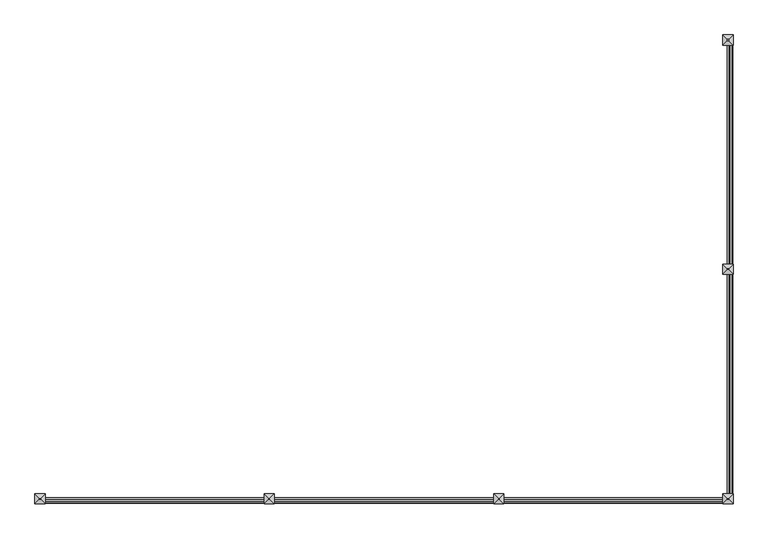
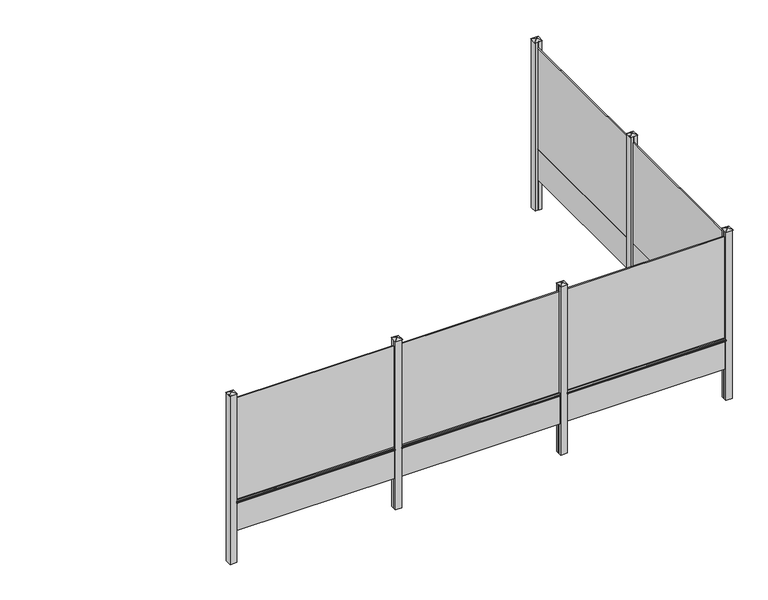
"""IFC4 building model written with IfcOpenShell, lengths in millimetres: railing geometry, Mehat - Railing - Plaque de Soubassement - Classique pour clôture rigide - 250x50x1.7 cm."""

import ifcopenshell
import ifcopenshell.guid

model = None  # the IFC model being written
_history = None  # IfcOwnerHistory: only IFC2X3 demands one
_inside = {}  # id of a spatial element -> (the spatial element, [elements in it])
_under = {}  # id of a project, library or spatial element -> (it, [spatial elements below it])
_declared = {}  # id of a project -> (the project, [libraries it declares])
_typed = {}  # id of a type object -> (the type object, [elements of that type])
_made_of = {}  # id of a material, layer set ... -> (it, [elements and type objects made of it])


def new_model(schema):
    """Start an empty IFC model of exactly this schema.

    Asked for "IFC4X3", IfcOpenShell would pick the latest addendum, in which some entities
    have other attributes; the version numbers below select the first issue.
    IFC2X3 requires an IfcOwnerHistory on every rooted entity: one is made here for all.
    """
    global model, _history
    if schema == "IFC4X3":
        model = ifcopenshell.file(schema_version=(4, 3, 0, 0))
    else:
        model = ifcopenshell.file(schema=schema)
    _inside.clear()
    _under.clear()
    _declared.clear()
    _typed.clear()
    _made_of.clear()
    _history = None
    if model.schema == "IFC2X3":
        org = make("IfcOrganization", Name="unknown")
        user = make(
            "IfcPersonAndOrganization",
            ThePerson=make("IfcPerson", FamilyName="unknown"),
            TheOrganization=org,
        )
        app = make(
            "IfcApplication",
            ApplicationDeveloper=org,
            Version="unknown",
            ApplicationFullName="unknown",
            ApplicationIdentifier="unknown",
        )
        _history = make(
            "IfcOwnerHistory",
            OwningUser=user,
            OwningApplication=app,
            ChangeAction="ADDED",
            CreationDate=0,
        )
    return model


def make(cls, **values):
    """One entity of the class cls with the attributes given. An attribute that is None is left unset."""
    return model.create_entity(
        cls, **{name: value for name, value in values.items() if value is not None}
    )


def rooted(cls, **values):
    """An entity with a GlobalId (a new one), such as an element, a storey or a relation."""
    return make(cls, GlobalId=ifcopenshell.guid.new(), OwnerHistory=_history, **values)


def si_unit(unit_type, name, prefix=None):
    """IfcSIUnit, for example si_unit("LENGTHUNIT", "METRE", prefix="MILLI")."""
    return make("IfcSIUnit", UnitType=unit_type, Prefix=prefix, Name=name)


def assignment(units):
    """IfcUnitAssignment: the units of a project."""
    return None if units is None else make("IfcUnitAssignment", Units=units)


def point(xyz):
    """IfcCartesianPoint."""
    return None if xyz is None else make("IfcCartesianPoint", Coordinates=xyz)


def direction(xyz):
    """IfcDirection."""
    return None if xyz is None else make("IfcDirection", DirectionRatios=xyz)


def frame(location, z_axis=None, x_axis=None):
    """IfcAxis2Placement3D, a coordinate frame: its origin and axes. An axis left out is left unset."""
    return make(
        "IfcAxis2Placement3D",
        Location=point(location),
        Axis=direction(z_axis),
        RefDirection=direction(x_axis),
    )


def frame_2d(location, x_axis=None):
    """IfcAxis2Placement2D, a coordinate frame in the plane: its origin and x axis."""
    return make(
        "IfcAxis2Placement2D", Location=point(location), RefDirection=direction(x_axis)
    )


def origin():
    """The frame at (0, 0, 0) with its axes left unset."""
    return frame((0.0, 0.0, 0.0))


def origin_with_axes():
    """The frame at (0, 0, 0) with the z axis (0, 0, 1) and the x axis (1, 0, 0) written out."""
    return frame((0.0, 0.0, 0.0), z_axis=(0.0, 0.0, 1.0), x_axis=(1.0, 0.0, 0.0))


def place(relative_to, where):
    """IfcLocalPlacement: puts the frame where relative to a parent placement (None: the world)."""
    return make(
        "IfcLocalPlacement", PlacementRelTo=relative_to, RelativePlacement=where
    )


def context(
    kind, dimensions, precision=None, world=None, true_north=None, identifier=None
):
    """IfcGeometricRepresentationContext, for example the 3D "Model" context."""
    return make(
        "IfcGeometricRepresentationContext",
        ContextIdentifier=identifier,
        ContextType=kind,
        CoordinateSpaceDimension=dimensions,
        Precision=precision,
        WorldCoordinateSystem=world,
        TrueNorth=true_north,
    )


def project(units=None, contexts=None):
    """IfcProject with its units and contexts."""
    return rooted(
        "IfcProject",
        Name="project",
        RepresentationContexts=contexts,
        UnitsInContext=assignment(units),
    )


def spatial(cls, under=None, at=None, **own):
    """A site, building, storey or space (cls), placed at a placement, below another one or the project."""
    s = rooted(cls, ObjectPlacement=at, **own)
    if under is not None:
        _under.setdefault(under.id(), (under, []))[1].append(s)
    return s


def polyline(points):
    """IfcPolyline through the points."""
    return make("IfcPolyline", Points=[point(p) for p in points])


def circle_curve(where, radius):
    """IfcCircle in the frame where."""
    return make("IfcCircle", Position=where, Radius=radius)


def trimmed(basis, trim1, trim2, sense, master):
    """IfcTrimmedCurve: the piece of a basis curve between two trims."""
    return make(
        "IfcTrimmedCurve",
        BasisCurve=basis,
        Trim1=trim1,
        Trim2=trim2,
        SenseAgreement=sense,
        MasterRepresentation=master,
    )


def segment(curve, same_sense, transition):
    """IfcCompositeCurveSegment."""
    return make(
        "IfcCompositeCurveSegment",
        Transition=transition,
        SameSense=same_sense,
        ParentCurve=curve,
    )


def composite_curve(segments, self_intersect=None):
    """IfcCompositeCurve: segments joined end to end."""
    return make("IfcCompositeCurve", Segments=segments, SelfIntersect=self_intersect)


def outline(outer, holes=None, kind="AREA"):
    """IfcArbitraryClosedProfileDef: a profile drawn as a closed curve; with holes, ...WithVoids."""
    if holes is None:
        return make("IfcArbitraryClosedProfileDef", ProfileType=kind, OuterCurve=outer)
    return make(
        "IfcArbitraryProfileDefWithVoids",
        ProfileType=kind,
        OuterCurve=outer,
        InnerCurves=holes,
    )


def extrude(swept, where, along, depth):
    """IfcExtrudedAreaSolid: the profile swept, set in the frame where, extruded along a direction by depth."""
    return make(
        "IfcExtrudedAreaSolid",
        SweptArea=swept,
        Position=where,
        ExtrudedDirection=direction(along),
        Depth=depth,
    )


def faces_of(points, faces, orient=None, outer=None):
    """IfcFace entities. A face is a list of loops; a loop is a list of indices into points, from 0.

    orient and outer hold one flag for each loop. By default every Orientation is true, the
    first loop of a face is its IfcFaceOuterBound and the others are IfcFaceBound.
    """
    made = []
    for i, loops in enumerate(faces):
        bounds = []
        for j, loop in enumerate(loops):
            is_outer = j == 0 if outer is None else outer[i][j]
            bounds.append(
                make(
                    "IfcFaceOuterBound" if is_outer else "IfcFaceBound",
                    Bound=make("IfcPolyLoop", Polygon=[points[k] for k in loop]),
                    Orientation=True if orient is None else orient[i][j],
                )
            )
        made.append(make("IfcFace", Bounds=bounds))
    return made


def faceted_brep(points, faces, orient=None, outer=None, voids=None):
    """IfcFacetedBrep: a solid bounded by flat faces; with voids (closed shells), ...WithVoids."""
    shared = [point(p) for p in points]
    hull = make("IfcClosedShell", CfsFaces=faces_of(shared, faces, orient, outer))
    if voids is None:
        return make("IfcFacetedBrep", Outer=hull)
    return make(
        "IfcFacetedBrepWithVoids",
        Outer=hull,
        Voids=[
            make(cls, CfsFaces=faces_of(shared, fs, o, b)) for cls, fs, o, b in voids
        ],
    )


def shape(context_of_items, identifier, shape_type, items):
    """IfcShapeRepresentation: the items that make up one representation, for example the "Body"."""
    return make(
        "IfcShapeRepresentation",
        ContextOfItems=context_of_items,
        RepresentationIdentifier=identifier,
        RepresentationType=shape_type,
        Items=items,
    )


def source(mapping_origin, context_of_items, identifier, shape_type, items):
    """IfcRepresentationMap: a shape defined once, which mapped items show again and again."""
    return make(
        "IfcRepresentationMap",
        MappingOrigin=mapping_origin,
        MappedRepresentation=shape(context_of_items, identifier, shape_type, items),
    )


def transform(
    local_origin,
    x_axis=None,
    y_axis=None,
    z_axis=None,
    scale=None,
    scale2=None,
    scale3=None,
    uniform=True,
):
    """IfcCartesianTransformationOperator3D, or its non-uniform kind. x_axis, y_axis, z_axis: its Axis1, 2, 3."""
    if uniform:
        return make(
            "IfcCartesianTransformationOperator3D",
            Axis1=direction(x_axis),
            Axis2=direction(y_axis),
            LocalOrigin=point(local_origin),
            Scale=scale,
            Axis3=direction(z_axis),
        )
    return make(
        "IfcCartesianTransformationOperator3DnonUniform",
        Axis1=direction(x_axis),
        Axis2=direction(y_axis),
        LocalOrigin=point(local_origin),
        Scale=scale,
        Axis3=direction(z_axis),
        Scale2=scale2,
        Scale3=scale3,
    )


def mapped(mapping_source, mapping_target):
    """IfcMappedItem: shows the shape of a source again, moved by a transform."""
    return make(
        "IfcMappedItem", MappingSource=mapping_source, MappingTarget=mapping_target
    )


def made_of(thing, what):
    """Note that an element or type object is made of a material, layer set ...; save() writes the relation."""
    if what is not None:
        _made_of.setdefault(what.id(), (what, []))[1].append(thing)
    return thing


def element(
    cls,
    number,
    at=None,
    inside=None,
    cuts=None,
    type_object=None,
    material=None,
    context=None,
    identifier="Body",
    shape_type=None,
    held_by="IfcProductDefinitionShape",
    body=None,
    shapes=None,
    **own,
):
    """One element of the class cls, such as IfcWall. Its Tag is "e" and its number.

    at: its placement. inside: the storey or other place that contains it. cuts: it is an
    opening in that element (IfcRelVoidsElement). A single representation is given by context,
    identifier, shape_type and body (its items); several are given by shapes. held_by: the class
    of the entity that holds the representations. save() writes the other relations.
    """
    e = rooted(cls, Tag="e%d" % number, ObjectPlacement=at, **own)
    if body is not None:
        shapes = [shape(context, identifier, shape_type, body)]
    if shapes is not None:
        e.Representation = make(held_by, Representations=shapes)
    if inside is not None:
        _inside.setdefault(inside.id(), (inside, []))[1].append(e)
    if cuts is not None:
        rooted(
            "IfcRelVoidsElement", RelatingBuildingElement=cuts, RelatedOpeningElement=e
        )
    if type_object is not None:
        _typed.setdefault(type_object.id(), (type_object, []))[1].append(e)
    return made_of(e, material)


def aggregate(whole, parts):
    """IfcRelAggregates: a whole, such as a stair, and the parts it consists of."""
    return rooted("IfcRelAggregates", RelatingObject=whole, RelatedObjects=parts)


def save(model, path):
    """Write the relations noted so far, then the file.

    IfcRelAggregates (storeys below a building ...), IfcRelContainedInSpatialStructure (elements
    in a storey), IfcRelDefinesByType, IfcRelAssociatesMaterial and IfcRelDeclares: one each for
    every whole, place, type object, material and project.
    """
    for whole, parts in _under.values():
        aggregate(whole, parts)
    for where, things in _inside.values():
        rooted(
            "IfcRelContainedInSpatialStructure",
            RelatedElements=things,
            RelatingStructure=where,
        )
    for kind, things in _typed.values():
        rooted("IfcRelDefinesByType", RelatedObjects=things, RelatingType=kind)
    for what, things in _made_of.values():
        rooted("IfcRelAssociatesMaterial", RelatedObjects=things, RelatingMaterial=what)
    for by, libraries in _declared.values():
        rooted("IfcRelDeclares", RelatingContext=by, RelatedDefinitions=libraries)
    model.write(path)


def railing_8aa74cb8(model_context):
    return source(origin(), model_context, "Body", "SolidModel", [
        extrude(outline(polyline([(-14103.7483484, -11027.4943936), (-14120.7483484, -11027.4943936), (-14120.7483484, -8527.4943936), (-14103.7483484, -8527.4943936), (-14103.7483484, -11027.4943936)])), frame((0.0, 0.0, 500.0), z_axis=(0.0, 0.0, 1.0), x_axis=(1.0, 0.0, 0.0)), (0.0, 0.0, 1.0), 1650.0),
        extrude(outline(polyline([(-14103.7483484, -11027.4943936), (-14120.7483484, -11027.4943936), (-14120.7483484, -8527.4943936), (-14103.7483484, -8527.4943936), (-14103.7483484, -8552.4943936), (-14085.7483484, -8552.4943936), (-14085.7483484, -11002.4943936), (-14103.7483484, -11002.4943936), (-14103.7483484, -11027.4943936)])), origin_with_axes(), (0.0, 0.0, 1.0), 500.0),
        extrude(outline(composite_curve([segment(polyline([(460.0, -14085.7483484), (467.1937129, -14064.1672095)]), True, "CONTINUOUS"), segment(trimmed(circle_curve(frame_2d((471.9371294, -14065.7483484)), 5.0), [point((467.1937129, -14064.1672095))], [point((471.9371294, -14060.7483484))], False, "CARTESIAN"), True, "CONTINUOUS"), segment(polyline([(471.9371294, -14060.7483484), (488.0628706, -14060.7483484)]), True, "CONTINUOUS"), segment(trimmed(circle_curve(frame_2d((488.0628706, -14065.7483484)), 5.0), [point((488.0628706, -14060.7483484))], [point((492.8062871, -14064.1672095))], False, "CARTESIAN"), True, "CONTINUOUS"), segment(polyline([(492.8062871, -14064.1672095), (500.0, -14085.7483484), (460.0, -14085.7483484)]), True, "CONTINUOUS")], self_intersect=False)), frame((0.0, -11002.4943936, 0.0), z_axis=(0.0, 1.0, 0.0), x_axis=(0.0, 0.0, 1.0)), (0.0, 0.0, 1.0), 2450.0),
        extrude(outline(polyline([(-14062.2483484, -11102.4943936), (-14103.7483484, -11102.4943936), (-14103.7483484, -11077.4943936), (-14120.7483484, -11077.4943936), (-14120.7483484, -11102.4943936), (-14162.2483484, -11102.4943936), (-14162.2483484, -11002.4943936), (-14120.7483484, -11002.4943936), (-14120.7483484, -11027.4943936), (-14103.7483484, -11027.4943936), (-14103.7483484, -11002.4943936), (-14062.2483484, -11002.4943936), (-14062.2483484, -11102.4943936)])), frame((0.0, 0.0, -500.0), z_axis=(0.0, 0.0, 1.0), x_axis=(1.0, 0.0, 0.0)), (0.0, 0.0, 1.0), 2750.0),
        faceted_brep([(-14118.6528945, -11046.1443936, 2275.4), (-14118.6528945, -11058.8443936, 2275.4), (-14105.9528945, -11058.8443936, 2275.4), (-14105.9528945, -11046.1443936, 2275.4), (-14168.5983484, -10996.1443936, 2250.0), (-14055.8983484, -10996.1443936, 2250.0), (-14055.8983484, -11108.8443936, 2250.0), (-14168.5983484, -11108.8443936, 2250.0)], [[[0, 1, 2, 3]], [[4, 5, 6, 7]], [[4, 0, 3, 5]], [[5, 3, 2, 6]], [[6, 2, 1, 7]], [[7, 1, 0, 4]]]),
        extrude(outline(polyline([(-14103.7483484, -13577.4943936), (-14120.7483484, -13577.4943936), (-14120.7483484, -11077.4943936), (-14103.7483484, -11077.4943936), (-14103.7483484, -13577.4943936)])), frame((0.0, 0.0, 500.0), z_axis=(0.0, 0.0, 1.0), x_axis=(1.0, 0.0, 0.0)), (0.0, 0.0, 1.0), 1650.0),
        extrude(outline(polyline([(-14103.7483484, -13577.4943936), (-14120.7483484, -13577.4943936), (-14120.7483484, -11077.4943936), (-14103.7483484, -11077.4943936), (-14103.7483484, -11102.4943936), (-14085.7483484, -11102.4943936), (-14085.7483484, -13552.4943936), (-14103.7483484, -13552.4943936), (-14103.7483484, -13577.4943936)])), origin_with_axes(), (0.0, 0.0, 1.0), 500.0),
        extrude(outline(composite_curve([segment(polyline([(460.0, -14085.7483484), (467.1937129, -14064.1672095)]), True, "CONTINUOUS"), segment(trimmed(circle_curve(frame_2d((471.9371294, -14065.7483484)), 5.0), [point((467.1937129, -14064.1672095))], [point((471.9371294, -14060.7483484))], False, "CARTESIAN"), True, "CONTINUOUS"), segment(polyline([(471.9371294, -14060.7483484), (488.0628706, -14060.7483484)]), True, "CONTINUOUS"), segment(trimmed(circle_curve(frame_2d((488.0628706, -14065.7483484)), 5.0), [point((488.0628706, -14060.7483484))], [point((492.8062871, -14064.1672095))], False, "CARTESIAN"), True, "CONTINUOUS"), segment(polyline([(492.8062871, -14064.1672095), (500.0, -14085.7483484), (460.0, -14085.7483484)]), True, "CONTINUOUS")], self_intersect=False)), frame((0.0, -13552.4943936, 0.0), z_axis=(0.0, 1.0, 0.0), x_axis=(0.0, 0.0, 1.0)), (0.0, 0.0, 1.0), 2450.0),
        extrude(outline(polyline([(-16637.2483484, -13610.9943936), (-16637.2483484, -13593.9943936), (-14137.2483484, -13593.9943936), (-14137.2483484, -13610.9943936), (-16637.2483484, -13610.9943936)])), frame((0.0, 0.0, 500.0), z_axis=(0.0, 0.0, 1.0), x_axis=(1.0, 0.0, 0.0)), (0.0, 0.0, 1.0), 1650.0),
        extrude(outline(polyline([(-16637.2483484, -13610.9943936), (-16637.2483484, -13593.9943936), (-14137.2483484, -13593.9943936), (-14137.2483484, -13610.9943936), (-14162.2483484, -13610.9943936), (-14162.2483484, -13628.9943936), (-16612.2483484, -13628.9943936), (-16612.2483484, -13610.9943936), (-16637.2483484, -13610.9943936)])), origin_with_axes(), (0.0, 0.0, 1.0), 500.0),
        extrude(outline(composite_curve([segment(polyline([(-13628.9943936, 460.0), (-13650.5755325, 467.1937129)]), True, "CONTINUOUS"), segment(trimmed(circle_curve(frame_2d((-13648.9943936, 471.9371294)), 5.0), [point((-13650.5755325, 467.1937129))], [point((-13653.9943936, 471.9371294))], False, "CARTESIAN"), True, "CONTINUOUS"), segment(polyline([(-13653.9943936, 471.9371294), (-13653.9943936, 488.0628706)]), True, "CONTINUOUS"), segment(trimmed(circle_curve(frame_2d((-13648.9943936, 488.0628706)), 5.0), [point((-13653.9943936, 488.0628706))], [point((-13650.5755325, 492.8062871))], False, "CARTESIAN"), True, "CONTINUOUS"), segment(polyline([(-13650.5755325, 492.8062871), (-13628.9943936, 500.0), (-13628.9943936, 460.0)]), True, "CONTINUOUS")], self_intersect=False)), frame((-16612.2483484, 0.0, 0.0), z_axis=(1.0, 0.0, 0.0), x_axis=(0.0, 1.0, 0.0)), (0.0, 0.0, 1.0), 2450.0),
        extrude(outline(polyline([(-16712.2483484, -13652.4943936), (-16712.2483484, -13610.9943936), (-16687.2483484, -13610.9943936), (-16687.2483484, -13593.9943936), (-16712.2483484, -13593.9943936), (-16712.2483484, -13552.4943936), (-16612.2483484, -13552.4943936), (-16612.2483484, -13593.9943936), (-16637.2483484, -13593.9943936), (-16637.2483484, -13610.9943936), (-16612.2483484, -13610.9943936), (-16612.2483484, -13652.4943936), (-16712.2483484, -13652.4943936)])), frame((0.0, 0.0, -500.0), z_axis=(0.0, 0.0, 1.0), x_axis=(1.0, 0.0, 0.0)), (0.0, 0.0, 1.0), 2750.0),
        faceted_brep([(-16655.8983484, -13596.0898475, 2275.4), (-16668.5983484, -13596.0898475, 2275.4), (-16668.5983484, -13608.7898475, 2275.4), (-16655.8983484, -13608.7898475, 2275.4), (-16605.8983484, -13546.1443936, 2250.0), (-16605.8983484, -13658.8443936, 2250.0), (-16718.5983484, -13658.8443936, 2250.0), (-16718.5983484, -13546.1443936, 2250.0)], [[[0, 1, 2, 3]], [[4, 5, 6, 7]], [[4, 0, 3, 5]], [[5, 3, 2, 6]], [[6, 2, 1, 7]], [[7, 1, 0, 4]]]),
        extrude(outline(polyline([(-19187.2483484, -13610.9943936), (-19187.2483484, -13593.9943936), (-16687.2483484, -13593.9943936), (-16687.2483484, -13610.9943936), (-19187.2483484, -13610.9943936)])), frame((0.0, 0.0, 500.0), z_axis=(0.0, 0.0, 1.0), x_axis=(1.0, 0.0, 0.0)), (0.0, 0.0, 1.0), 1650.0),
        extrude(outline(polyline([(-19187.2483484, -13610.9943936), (-19187.2483484, -13593.9943936), (-16687.2483484, -13593.9943936), (-16687.2483484, -13610.9943936), (-16712.2483484, -13610.9943936), (-16712.2483484, -13628.9943936), (-19162.2483484, -13628.9943936), (-19162.2483484, -13610.9943936), (-19187.2483484, -13610.9943936)])), origin_with_axes(), (0.0, 0.0, 1.0), 500.0),
        extrude(outline(composite_curve([segment(polyline([(-13628.9943936, 460.0), (-13650.5755325, 467.1937129)]), True, "CONTINUOUS"), segment(trimmed(circle_curve(frame_2d((-13648.9943936, 471.9371294)), 5.0), [point((-13650.5755325, 467.1937129))], [point((-13653.9943936, 471.9371294))], False, "CARTESIAN"), True, "CONTINUOUS"), segment(polyline([(-13653.9943936, 471.9371294), (-13653.9943936, 488.0628706)]), True, "CONTINUOUS"), segment(trimmed(circle_curve(frame_2d((-13648.9943936, 488.0628706)), 5.0), [point((-13653.9943936, 488.0628706))], [point((-13650.5755325, 492.8062871))], False, "CARTESIAN"), True, "CONTINUOUS"), segment(polyline([(-13650.5755325, 492.8062871), (-13628.9943936, 500.0), (-13628.9943936, 460.0)]), True, "CONTINUOUS")], self_intersect=False)), frame((-19162.2483484, 0.0, 0.0), z_axis=(1.0, 0.0, 0.0), x_axis=(0.0, 1.0, 0.0)), (0.0, 0.0, 1.0), 2450.0),
        extrude(outline(polyline([(-19262.2483484, -13652.4943936), (-19262.2483484, -13610.9943936), (-19237.2483484, -13610.9943936), (-19237.2483484, -13593.9943936), (-19262.2483484, -13593.9943936), (-19262.2483484, -13552.4943936), (-19162.2483484, -13552.4943936), (-19162.2483484, -13593.9943936), (-19187.2483484, -13593.9943936), (-19187.2483484, -13610.9943936), (-19162.2483484, -13610.9943936), (-19162.2483484, -13652.4943936), (-19262.2483484, -13652.4943936)])), frame((0.0, 0.0, -500.0), z_axis=(0.0, 0.0, 1.0), x_axis=(1.0, 0.0, 0.0)), (0.0, 0.0, 1.0), 2750.0),
        faceted_brep([(-19205.8983484, -13596.0898475, 2275.4), (-19218.5983484, -13596.0898475, 2275.4), (-19218.5983484, -13608.7898475, 2275.4), (-19205.8983484, -13608.7898475, 2275.4), (-19155.8983484, -13546.1443936, 2250.0), (-19155.8983484, -13658.8443936, 2250.0), (-19268.5983484, -13658.8443936, 2250.0), (-19268.5983484, -13546.1443936, 2250.0)], [[[0, 1, 2, 3]], [[4, 5, 6, 7]], [[4, 0, 3, 5]], [[5, 3, 2, 6]], [[6, 2, 1, 7]], [[7, 1, 0, 4]]]),
        extrude(outline(polyline([(-21737.2483484, -13610.9943936), (-21737.2483484, -13593.9943936), (-19237.2483484, -13593.9943936), (-19237.2483484, -13610.9943936), (-21737.2483484, -13610.9943936)])), frame((0.0, 0.0, 500.0), z_axis=(0.0, 0.0, 1.0), x_axis=(1.0, 0.0, 0.0)), (0.0, 0.0, 1.0), 1650.0),
        extrude(outline(polyline([(-21737.2483484, -13610.9943936), (-21737.2483484, -13593.9943936), (-19237.2483484, -13593.9943936), (-19237.2483484, -13610.9943936), (-19262.2483484, -13610.9943936), (-19262.2483484, -13628.9943936), (-21712.2483484, -13628.9943936), (-21712.2483484, -13610.9943936), (-21737.2483484, -13610.9943936)])), origin_with_axes(), (0.0, 0.0, 1.0), 500.0),
        extrude(outline(composite_curve([segment(polyline([(-13628.9943936, 460.0), (-13650.5755325, 467.1937129)]), True, "CONTINUOUS"), segment(trimmed(circle_curve(frame_2d((-13648.9943936, 471.9371294)), 5.0), [point((-13650.5755325, 467.1937129))], [point((-13653.9943936, 471.9371294))], False, "CARTESIAN"), True, "CONTINUOUS"), segment(polyline([(-13653.9943936, 471.9371294), (-13653.9943936, 488.0628706)]), True, "CONTINUOUS"), segment(trimmed(circle_curve(frame_2d((-13648.9943936, 488.0628706)), 5.0), [point((-13653.9943936, 488.0628706))], [point((-13650.5755325, 492.8062871))], False, "CARTESIAN"), True, "CONTINUOUS"), segment(polyline([(-13650.5755325, 492.8062871), (-13628.9943936, 500.0), (-13628.9943936, 460.0)]), True, "CONTINUOUS")], self_intersect=False)), frame((-21712.2483484, 0.0, 0.0), z_axis=(1.0, 0.0, 0.0), x_axis=(0.0, 1.0, 0.0)), (0.0, 0.0, 1.0), 2450.0),
        extrude(outline(polyline([(-14162.2483484, -13652.4943936), (-14162.2483484, -13610.9943936), (-14137.2483484, -13610.9943936), (-14137.2483484, -13593.9943936), (-14162.2483484, -13593.9943936), (-14162.2483484, -13552.4943936), (-14120.7483484, -13552.4943936), (-14120.7483484, -13577.4943936), (-14103.7483484, -13577.4943936), (-14103.7483484, -13552.4943936), (-14062.2483484, -13552.4943936), (-14062.2483484, -13652.4943936), (-14162.2483484, -13652.4943936)])), frame((0.0, 0.0, -500.0), z_axis=(0.0, 0.0, 1.0), x_axis=(1.0, 0.0, 0.0)), (0.0, 0.0, 1.0), 2750.0),
        faceted_brep([(-14105.8983484, -13596.0898475, 2275.4), (-14118.5983484, -13596.0898475, 2275.4), (-14118.5983484, -13608.7898475, 2275.4), (-14105.8983484, -13608.7898475, 2275.4), (-14055.8983484, -13546.1443936, 2250.0), (-14055.8983484, -13658.8443936, 2250.0), (-14168.5983484, -13658.8443936, 2250.0), (-14168.5983484, -13546.1443936, 2250.0)], [[[0, 1, 2, 3]], [[4, 5, 6, 7]], [[4, 0, 3, 5]], [[5, 3, 2, 6]], [[6, 2, 1, 7]], [[7, 1, 0, 4]]]),
        extrude(outline(polyline([(-14062.2483484, -8552.4943936), (-14103.7483484, -8552.4943936), (-14103.7483484, -8527.4943936), (-14120.7483484, -8527.4943936), (-14120.7483484, -8552.4943936), (-14162.2483484, -8552.4943936), (-14162.2483484, -8452.4943936), (-14062.2483484, -8452.4943936), (-14062.2483484, -8552.4943936)])), frame((0.0, 0.0, -500.0), z_axis=(0.0, 0.0, 1.0), x_axis=(1.0, 0.0, 0.0)), (0.0, 0.0, 1.0), 2750.0),
        faceted_brep([(-14118.6528945, -8496.1443936, 2275.4), (-14118.6528945, -8508.8443936, 2275.4), (-14105.9528945, -8508.8443936, 2275.4), (-14105.9528945, -8496.1443936, 2275.4), (-14168.5983484, -8446.1443936, 2250.0), (-14055.8983484, -8446.1443936, 2250.0), (-14055.8983484, -8558.8443936, 2250.0), (-14168.5983484, -8558.8443936, 2250.0)], [[[0, 1, 2, 3]], [[4, 5, 6, 7]], [[4, 0, 3, 5]], [[5, 3, 2, 6]], [[6, 2, 1, 7]], [[7, 1, 0, 4]]]),
        extrude(outline(polyline([(-21812.2483484, -13652.4943936), (-21812.2483484, -13552.4943936), (-21712.2483484, -13552.4943936), (-21712.2483484, -13593.9943936), (-21737.2483484, -13593.9943936), (-21737.2483484, -13610.9943936), (-21712.2483484, -13610.9943936), (-21712.2483484, -13652.4943936), (-21812.2483484, -13652.4943936)])), frame((0.0, 0.0, -500.0), z_axis=(0.0, 0.0, 1.0), x_axis=(1.0, 0.0, 0.0)), (0.0, 0.0, 1.0), 2750.0),
        faceted_brep([(-21755.8983484, -13596.0898475, 2275.4), (-21768.5983484, -13596.0898475, 2275.4), (-21768.5983484, -13608.7898475, 2275.4), (-21755.8983484, -13608.7898475, 2275.4), (-21705.8983484, -13546.1443936, 2250.0), (-21705.8983484, -13658.8443936, 2250.0), (-21818.5983484, -13658.8443936, 2250.0), (-21818.5983484, -13546.1443936, 2250.0)], [[[0, 1, 2, 3]], [[4, 5, 6, 7]], [[4, 0, 3, 5]], [[5, 3, 2, 6]], [[6, 2, 1, 7]], [[7, 1, 0, 4]]]),
    ])


if __name__ == "__main__":
    model = new_model("IFC4")
    model_context = context("Model", 3, world=origin())
    ifc_project = project(units=[si_unit("LENGTHUNIT", "METRE", prefix="MILLI")], contexts=[model_context])
    site = spatial("IfcSite", under=ifc_project)
    building = spatial("IfcBuilding", under=site)
    placement = place(None, origin())
    railing_shape = railing_8aa74cb8(model_context)
    element("IfcRailing", 1, ObjectType="Mehat - Railing - Plaque de Soubassement - Classique pour clôture rigide - 250x50x1.7 cm", at=placement, inside=building, context=model_context, shape_type="MappedRepresentation", body=[
        mapped(railing_shape, transform((0.0, 0.0, 0.0), x_axis=(1.0, 0.0, 0.0), y_axis=(0.0, 1.0, 0.0), z_axis=(0.0, 0.0, 1.0))),
    ])
    save(model, "model.ifc")
